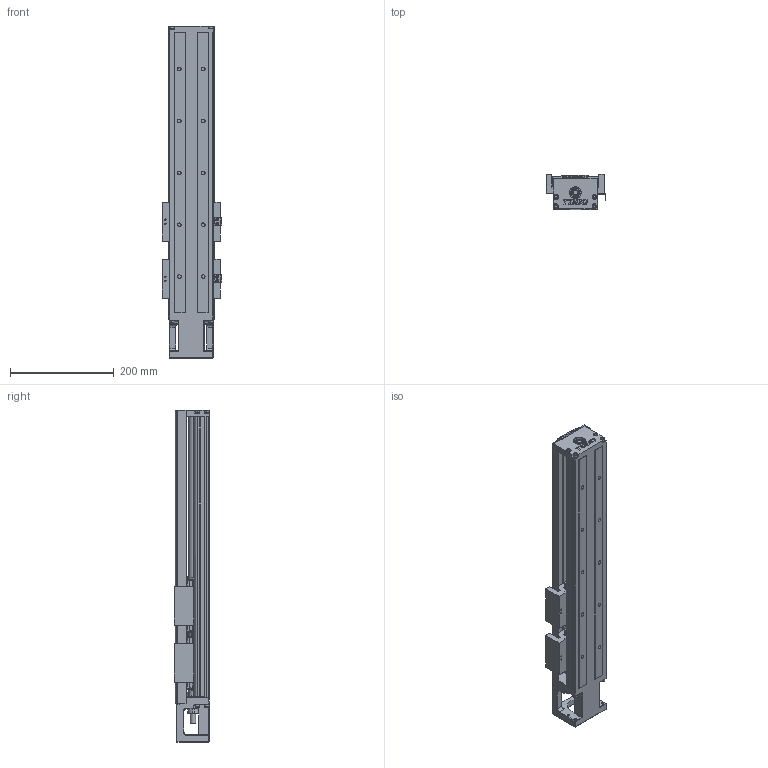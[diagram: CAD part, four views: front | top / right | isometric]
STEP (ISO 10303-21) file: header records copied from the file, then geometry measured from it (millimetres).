
FILE_DESCRIPTION (( 'STEP AP214' ), '1' );
FILE_NAME ('7.0107 Lineaariyksikkö KT86-540A2-F0C.STEP', '2026-03-16T11:39:19', ( '' ), ( '' ), 'SwSTEP 2.0', 'SolidWorks 2025', '' );
FILE_SCHEMA (( 'AUTOMOTIVE_DESIGN' ));
Length unit declared in the file: millimetre
Products named in the file (4): KT86-CU_540; KT86-F0_KKR86-ZT-P-540; 7.0107 Lineaariyksikkö KT86-540A2-F0C; KT86-A1-C
Assembly tree (4 placements, depth 2):
  7.0107 Lineaariyksikkö KT86-540A2-F0C
    KT86-F0_KKR86-ZT-P-540
    KT86-A1-C  x2
    KT86-CU_540
Bounding box: 114.7 x 68 x 640.2 mm (x, y, z)
Volume: 1874148.3 mm3; surface area: 587883.8 mm2
Topology: 52 solids, 52 shells, 2560 faces, 6627 edges, 4169 vertices
Faces by surface type: plane 1282, cylinder 842, cone 316, torus 77, sphere 26, bspline 17
Entity records: 69029 total; most frequent: CARTESIAN_POINT 10937, DIRECTION 8692, ORIENTED_EDGE 8346, EDGE_CURVE 4173, AXIS2_PLACEMENT_3D 3069, VERTEX_POINT 2673, LINE 2554, VECTOR 2554
